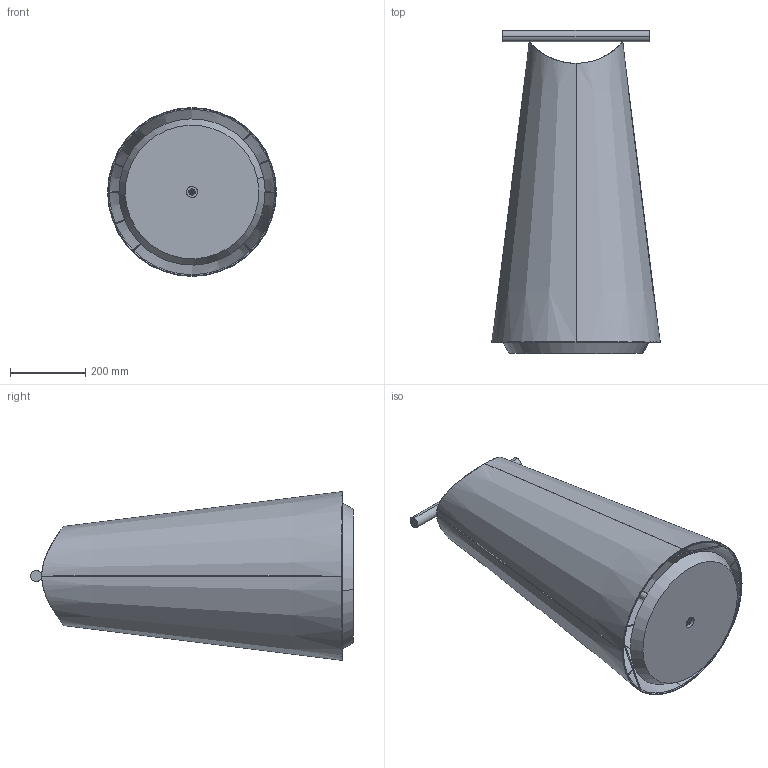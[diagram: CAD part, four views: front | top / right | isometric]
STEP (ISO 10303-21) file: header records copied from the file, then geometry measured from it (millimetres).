
FILE_DESCRIPTION (( 'STEP AP214' ), '1' );
FILE_NAME ('CATAY FLOOR.STEP', '2025-07-23T11:49:00', ( '' ), ( '' ), 'SwSTEP 2.0', 'SolidWorks 2016', '' );
FILE_SCHEMA (( 'AUTOMOTIVE_DESIGN' ));
Length unit declared in the file: millimetre
Products named in the file (25): BASE PARA PANTALLA CONO FLOOR 2025; TUBO ELEVADOR PARA BOMBILLA LAMPARA CONO FLOOR 2025; PANTALLA LAMPARA CONO FLOOR; MANGO LAMPARA CONO FLOOR 2025; TUERCA LAMPARERO M10x1 - 17x6; BOMBILLA E27; ROSCA LAMPARARERO PARA CASQUILLO BASE LAMPARA CONO 2025; PIEZA INFERIOR CASQUILLO BOMBILLA E27; ARANDELA CASQUILLO BOMBILLA E27; PIEZA SUPERIOR CASQUILLO BOMBILLA E27; ESTRUCTURA VARILLA 3,4MM LAMPARA CONO FLOOR GOFI; CASQUILLO CON ARANDELAS ROSCADA PARA BOMBILLA E27; CATAY FLOOR
Assembly tree (13 placements, depth 3):
  BASE PARA PANTALLA CONO FLOOR 2025
  TUBO ELEVADOR PARA BOMBILLA LAMPARA CONO FLOOR 2025
  MANGO LAMPARA CONO FLOOR 2025
  TUERCA LAMPARERO M10x1 - 17x6
  BOMBILLA E27
Bounding box: 450 x 861 x 450 mm (x, y, z)
Volume: 4052441.2 mm3; surface area: 2168407.1 mm2
Topology: 14 solids, 14 shells, 399 faces, 1127 edges, 735 vertices
Faces by surface type: cylinder 194, plane 157, torus 34, cone 12, sphere 2
Entity records: 13580 total; most frequent: CARTESIAN_POINT 3337, DIRECTION 2039, ORIENTED_EDGE 1986, EDGE_CURVE 993, AXIS2_PLACEMENT_3D 806, VERTEX_POINT 646, CIRCLE 436, VECTOR 427
